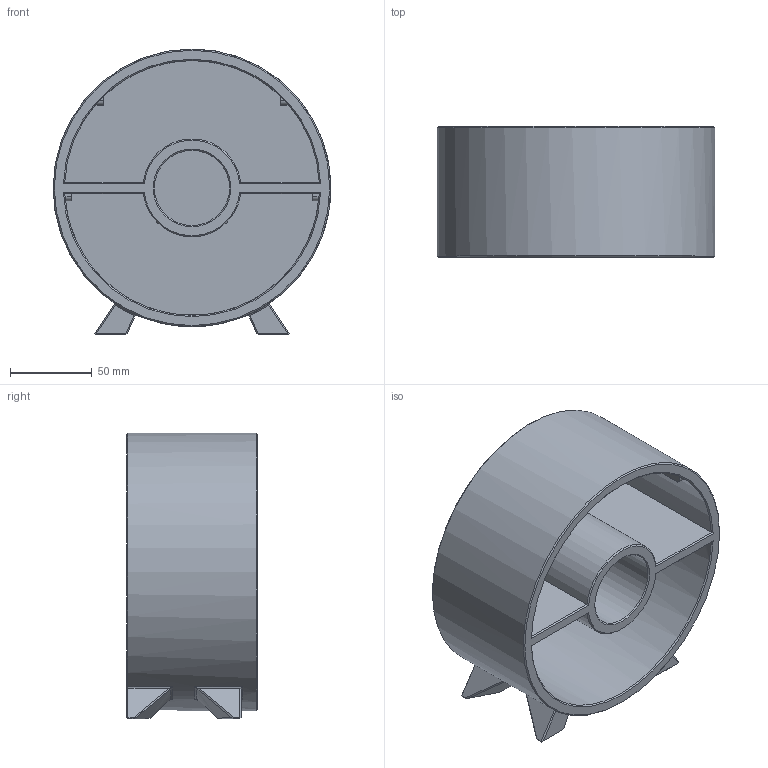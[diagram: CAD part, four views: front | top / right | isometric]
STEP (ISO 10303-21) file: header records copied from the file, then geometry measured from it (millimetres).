
FILE_DESCRIPTION(/* description */ (''),/* implementation_level */ '2;1');
FILE_NAME(/* name */ 'PokemonDrawers v2-base.step',/* time_stamp */ '2024-06-09T15:26:11+02:00',/* author */ (''),/* organization */ (''),/* preprocessor_version */ 'ST-DEVELOPER v20',/* originating_system */ 'Autodesk Translation Framework v13.14.0.145',/* authorisation */ '');
FILE_SCHEMA (('AUTOMOTIVE_DESIGN { 1 0 10303 214 3 1 1 }'));
Length unit declared in the file: millimetre
Products named in the file (2): PokemonDrawers; Component1
Assembly tree (1 placements, depth 2):
  PokemonDrawers
    Component1
Bounding box: 170 x 80 x 175 mm (x, y, z)
Volume: 476187.5 mm3; surface area: 169904.1 mm2
Topology: 1 solids, 1 shells, 141 faces, 296 edges, 162 vertices
Faces by surface type: plane 97, cone 18, cylinder 14, bspline 12
Full cylindrical faces by diameter (mm): 46 x1, 170 x1
Entity records: 3942 total; most frequent: CARTESIAN_POINT 1090, ORIENTED_EDGE 592, DIRECTION 536, EDGE_CURVE 296, AXIS2_PLACEMENT_3D 184, LINE 168, VECTOR 168, VERTEX_POINT 162
